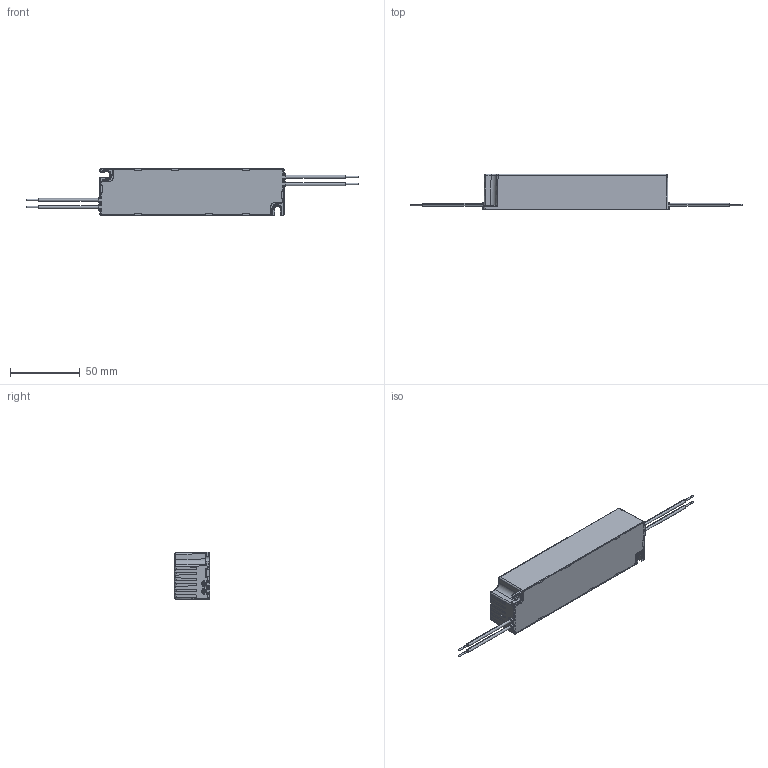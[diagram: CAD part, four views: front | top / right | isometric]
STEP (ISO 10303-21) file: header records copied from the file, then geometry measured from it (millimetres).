
FILE_DESCRIPTION((''),'2;1');
FILE_NAME('00-USVI-020024FR_ASM','2023-05-23T19:47:14',('JACKY.LEE'),(''),'CREO PARAMETRIC BY PTC INC, 2018400','CREO PARAMETRIC BY PTC INC, 2018400','');
FILE_SCHEMA(('CONFIG_CONTROL_DESIGN'));
Length unit declared in the file: millimetre
Products named in the file (7): COVER; BASE; LABEL; INPUT_WIRE; OUTPUT_WIRE; ASPHALT_2; 00-USVI-020024FR_ASM
Assembly tree (6 placements, depth 2):
  00-USVI-020024FR_ASM
    COVER
    BASE
    LABEL
    INPUT_WIRE
    OUTPUT_WIRE
    ASPHALT_2
Bounding box: 238 x 25.4 x 33.99 mm (x, y, z)
Volume: 33419.9 mm3; surface area: 49266.6 mm2
Topology: 8 solids, 8 shells, 697 faces, 1914 edges, 1230 vertices
Faces by surface type: plane 387, cylinder 238, bspline 40, sphere 20, torus 12
Entity records: 24496 total; most frequent: CARTESIAN_POINT 7298, ORIENTED_EDGE 3788, DIRECTION 3204, EDGE_CURVE 1894, VECTOR 1252, LINE 1252, VERTEX_POINT 1230, AXIS2_PLACEMENT_3D 976
